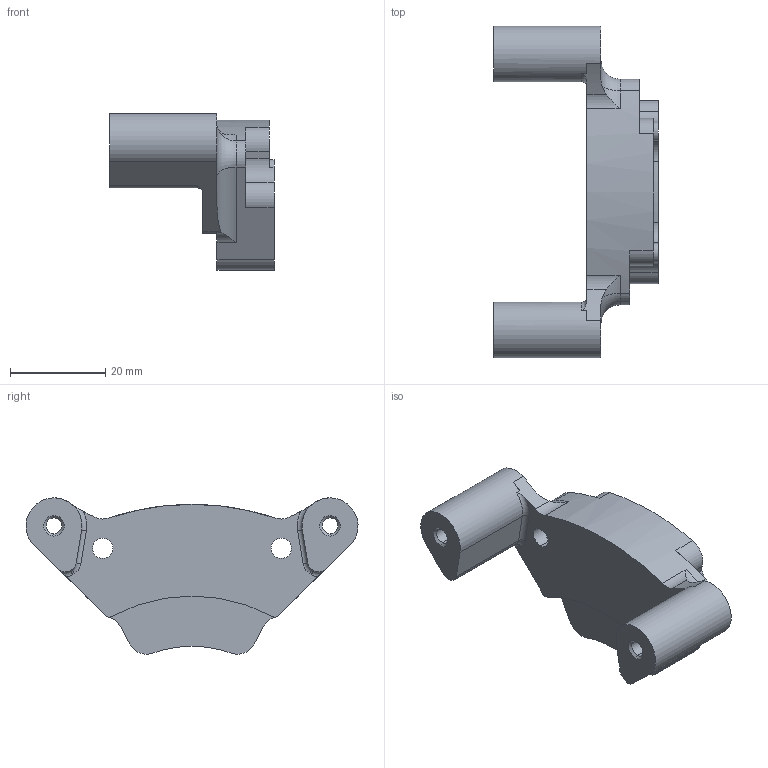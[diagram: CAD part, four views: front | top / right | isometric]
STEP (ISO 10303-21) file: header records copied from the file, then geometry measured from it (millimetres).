
FILE_DESCRIPTION((''),'2;1');
FILE_NAME('KD-C-103X_PITCHHARDSTOP-514875_','2025-07-12T11:25:58',('Administrator'),(''),'CREO PARAMETRIC BY PTC INC, 2022073','CREO PARAMETRIC BY PTC INC, 2022073','');
FILE_SCHEMA(('CONFIG_CONTROL_DESIGN'));
Length unit declared in the file: millimetre
Products named in the file (1): KD-C-103X_PITCHHARDSTOP-514875_
Bounding box: 34.5 x 69.73 x 32.83 mm (x, y, z)
Volume: 17135.9 mm3; surface area: 7965.5 mm2
Topology: 1 solids, 1 shells, 96 faces, 302 edges, 208 vertices
Faces by surface type: cylinder 53, plane 25, torus 10, cone 8
Entity records: 3604 total; most frequent: CARTESIAN_POINT 722, DIRECTION 642, ORIENTED_EDGE 604, EDGE_CURVE 302, AXIS2_PLACEMENT_3D 264, VERTEX_POINT 208, CIRCLE 168, VECTOR 114
